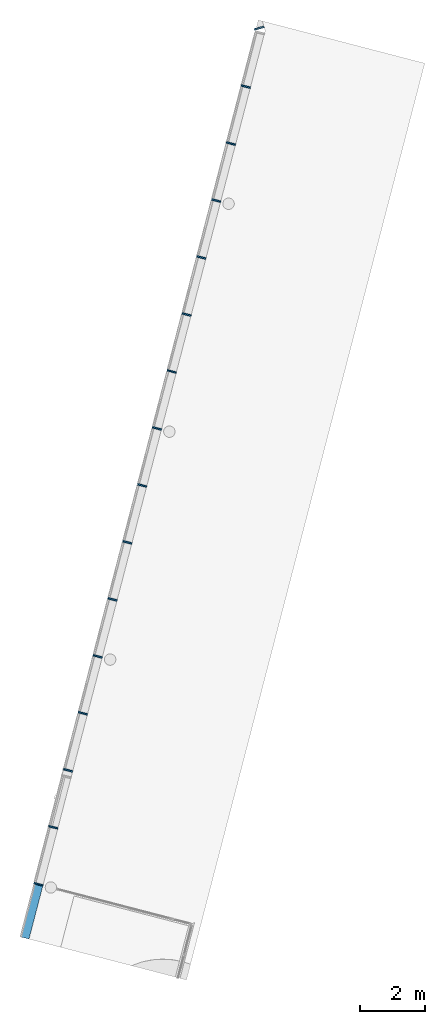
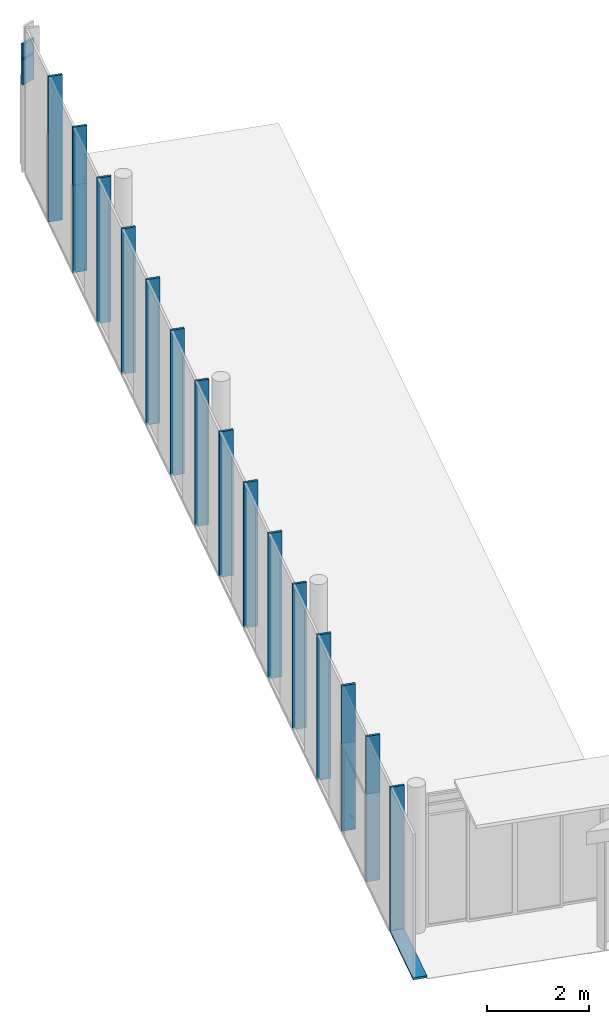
# One storey, part 4 of 9: 28 members, 9 elements without a shape of their own.
"""IFC2X3 building model written with IfcOpenShell, lengths in millimetres."""

from ifc_helpers import new_model, entity, si_unit, converted_unit, derived_unit, direction, frame, origin, origin_with_axes, origin_2d_with_axis, place, context, subcontext, project, spatial, rectangle, extrude, faceted_brep, source, transform, mapped, material, type_object, element, aggregate, save


model = new_model("IFC2X3")

# Units and contexts
model_context = context("Model", 3, precision=0.01, world=origin(), true_north=direction((6.12323399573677e-17, 1.0)))
plan_context = context("Plan", 3, precision=1e-05, world=origin_with_axes())
body_context = subcontext(model_context, "Body", "Model", "MODEL_VIEW")
ifc_project = project(units=[converted_unit("PLANEANGLEUNIT", "DEGREE", entity("IfcPositiveLengthMeasure", 0.0174532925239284), si_unit("PLANEANGLEUNIT", "RADIAN"), dimensions=[0, 0, 0, 0, 0, 0, 0]), si_unit("AREAUNIT", "SQUARE_METRE"), si_unit("LENGTHUNIT", "METRE", prefix="MILLI"), si_unit("MASSUNIT", "GRAM", prefix="KILO"), si_unit("POWERUNIT", "WATT"), si_unit("PRESSUREUNIT", "PASCAL", prefix="KILO"), si_unit("FORCEUNIT", "NEWTON", prefix="KILO"), si_unit("ELECTRICVOLTAGEUNIT", "VOLT"), si_unit("ELECTRICCURRENTUNIT", "AMPERE"), si_unit("THERMODYNAMICTEMPERATUREUNIT", "DEGREE_CELSIUS"), si_unit("TIMEUNIT", "SECOND"), si_unit("VOLUMEUNIT", "CUBIC_METRE"), derived_unit("LINEARVELOCITYUNIT", [(si_unit("LENGTHUNIT", "METRE"), 1), (si_unit("TIMEUNIT", "SECOND"), -1)]), derived_unit("VOLUMETRICFLOWRATEUNIT", [(si_unit("VOLUMEUNIT", "CUBIC_METRE"), 1), (si_unit("TIMEUNIT", "SECOND"), -1)]), derived_unit("THERMALTRANSMITTANCEUNIT", [(si_unit("POWERUNIT", "WATT"), 1), (si_unit("THERMODYNAMICTEMPERATUREUNIT", "KELVIN"), -1), (si_unit("AREAUNIT", "SQUARE_METRE"), -1)]), derived_unit("SOUNDPRESSUREUNIT", [(si_unit("PRESSUREUNIT", "PASCAL"), 1)])], contexts=[model_context, plan_context])

# Site, building, storey
site_placement = place(None, frame((0.0, -2.21771188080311e-09, 0.0), z_axis=(0.0, 0.0, 1.0), x_axis=(0.266093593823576, -0.963947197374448, 0.0)))
site = spatial("IfcSite", under=ifc_project, at=site_placement, Name="ENZV", CompositionType="ELEMENT")
building_placement = place(site_placement, origin_with_axes())
building = spatial("IfcBuilding", under=site, at=building_placement, Name="ZV001", CompositionType="ELEMENT")
storey_placement = place(building_placement, frame((0.0, 0.0, 5100.0), z_axis=(0.0, 0.0, 1.0), x_axis=(1.0, 0.0, 0.0)))
storey = spatial("IfcBuildingStorey", under=building, at=storey_placement, Name="H01", CompositionType="ELEMENT", Elevation=5100.0)

# Curtain wall, members
curtain_wall_type = type_object("IfcCurtainWallType", Name="Curtain Wall:Curtain Wall glass 125mm ut", PredefinedType="NOTDEFINED")
curtain_wall_1_placement = place(storey_placement, frame((0.0, 0.0, -5100.0), z_axis=(0.0, 0.0, 1.0), x_axis=(1.0, 0.0, 0.0)))
curtain_wall_1 = element("IfcCurtainWall", 1, at=curtain_wall_1_placement, inside=storey, type_object=curtain_wall_type, Name="Curtain Wall:Curtain Wall glass 125mm ut", ObjectType="Curtain Wall:Curtain Wall glass 125mm ut")
ifc_material = material(Name="Aluminium")
member_type_1 = type_object("IfcMemberType", Name="Rectangular Mullion:ENZV_300x50mm_offset 70", PredefinedType="MULLION", material=ifc_material)
shared_shape_1 = source(origin(), body_context, "Body", "SweptSolid", [
    extrude(rectangle(XDim=50.0, YDim=303.0, at=origin_2d_with_axis()), frame((-25.0, 67.0, -599.999999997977), z_axis=(0.0, 0.0, 1.0), x_axis=(-1.0, 0.0, 0.0)), (0.0, 0.0, 1.0), 599.999999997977),
])
member_1_placement = place(curtain_wall_1_placement, frame((-182783.615731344, 380431.274492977, 7215.0), z_axis=(0.0, 0.0, -1.0), x_axis=(1.0, 0.0, 0.0)))
member_1 = element("IfcMember", 2, at=member_1_placement, type_object=member_type_1, material=ifc_material, Name="Rectangular Mullion:ENZV_300x50mm_offset 70", ObjectType="Rectangular Mullion:ENZV_300x50mm_offset 70", context=body_context, shape_type="MappedRepresentation", body=[
    mapped(shared_shape_1, transform((0.0, 0.0, 0.0), scale=1.0)),
])
member_type_2 = type_object("IfcMemberType", Name="Rectangular Mullion:ENZV_300x50mm_offset 70", PredefinedType="MULLION", material=ifc_material)
shared_shape_2 = source(origin(), body_context, "Body", "SweptSolid", [
    extrude(rectangle(XDim=50.0, YDim=303.0, at=origin_2d_with_axis()), frame((-25.0, 67.0, -45.0), z_axis=(0.0, 0.0, 1.0), x_axis=(-1.0, 0.0, 0.0)), (0.0, 0.0, 1.0), 45.0000000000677),
])
member_2_placement = place(curtain_wall_1_placement, frame((-182783.615731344, 380431.274492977, 7814.99999999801), z_axis=(0.0, 0.0, -1.0), x_axis=(1.0, 0.0, 0.0)))
member_2 = element("IfcMember", 3, at=member_2_placement, type_object=member_type_2, material=ifc_material, Name="Rectangular Mullion:ENZV_300x50mm_offset 70", ObjectType="Rectangular Mullion:ENZV_300x50mm_offset 70", context=body_context, shape_type="MappedRepresentation", body=[
    mapped(shared_shape_2, transform((0.0, 0.0, 0.0), scale=1.0)),
])
member_type_3 = type_object("IfcMemberType", Name="Rectangular Mullion:ENZV_300x50mm_offset 70", PredefinedType="MULLION", material=ifc_material)
shared_shape_3 = source(origin(), body_context, "Body", "SweptSolid", [
    extrude(rectangle(XDim=50.0, YDim=303.0, at=origin_2d_with_axis()), frame((-25.0, 67.0, -335.333333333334), z_axis=(0.0, 0.0, 1.0), x_axis=(-1.0, 0.0, 0.0)), (0.0, 0.0, 1.0), 335.333333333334),
])
member_3_placement = place(curtain_wall_1_placement, frame((-182783.615731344, 380431.274492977, 7859.99999999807), z_axis=(0.0, 0.0, -1.0), x_axis=(1.0, 0.0, 0.0)))
member_3 = element("IfcMember", 4, at=member_3_placement, type_object=member_type_3, material=ifc_material, Name="Rectangular Mullion:ENZV_300x50mm_offset 70", ObjectType="Rectangular Mullion:ENZV_300x50mm_offset 70", context=body_context, shape_type="MappedRepresentation", body=[
    mapped(shared_shape_3, transform((0.0, 0.0, 0.0), scale=1.0)),
])
aggregate(curtain_wall_1, [member_1, member_2, member_3])

curtain_wall_2_placement = place(storey_placement, frame((0.0, 0.0, -5100.0), z_axis=(0.0, 0.0, 1.0), x_axis=(1.0, 0.0, 0.0)))
curtain_wall_2 = element("IfcCurtainWall", 5, at=curtain_wall_2_placement, inside=storey, type_object=curtain_wall_type, Name="Curtain Wall:Curtain Wall glass 125mm ut", ObjectType="Curtain Wall:Curtain Wall glass 125mm ut")
member_type_4 = type_object("IfcMemberType", Name="Rectangular Mullion:ENZV_304x50mm", PredefinedType="MULLION", material=ifc_material)
member_4_placement = place(curtain_wall_2_placement, frame((-170288.300932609, 373184.388485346, 5120.0), z_axis=(0.0, 0.0, -1.0), x_axis=(0.866025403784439, -0.5, 0.0)))
member_4 = element("IfcMember", 6, at=member_4_placement, type_object=member_type_4, Name="Rectangular Mullion:ENZV_304x50mm", ObjectType="Rectangular Mullion:ENZV_304x50mm", context=body_context, shape_type="Brep", body=[
    faceted_brep([(25.0, 132.001164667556, -1.81898940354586e-12), (24.9999999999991, 132.001164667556, -3480.0), (25.0, -152.0, -3480.0), (25.0, -152.0, -1.81898940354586e-12), (-25.0, -152.0, -3480.0), (-25.0000000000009, 131.998835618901, -3480.0), (-25.0, 131.998835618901, -1.81898940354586e-12), (-25.0, -152.0, -1.81898940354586e-12)], [[[0, 1, 2, 3]], [[4, 5, 6, 7]], [[2, 4, 7, 3]], [[6, 0, 3, 7]], [[1, 0, 6, 5]], [[5, 4, 2, 1]]], orient=[[False], [False], [False], [False], [False], [False]]),
])
member_5_placement = place(curtain_wall_2_placement, frame((-171847.104734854, 374084.46109692, 5120.0), z_axis=(0.0, 0.0, -1.0), x_axis=(0.866025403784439, -0.5, 0.0)))
member_5 = element("IfcMember", 7, at=member_5_placement, type_object=member_type_4, Name="Rectangular Mullion:ENZV_304x50mm", ObjectType="Rectangular Mullion:ENZV_304x50mm", context=body_context, shape_type="Brep", body=[
    faceted_brep([(25.0, 132.001164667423, -1.81898940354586e-12), (25.0000000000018, 132.001164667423, -3480.0), (25.0, -152.0, -3480.0), (25.0, -152.0, -1.81898940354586e-12), (-25.0, -152.0, -3480.0), (-25.0000000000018, 131.998835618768, -3480.0), (-25.0, 131.998835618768, -1.81898940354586e-12), (-25.0, -152.0, -1.81898940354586e-12)], [[[0, 1, 2, 3]], [[4, 5, 6, 7]], [[2, 4, 7, 3]], [[6, 0, 3, 7]], [[1, 0, 6, 5]], [[5, 4, 2, 1]]], orient=[[False], [False], [False], [False], [False], [False]]),
])
member_6_placement = place(curtain_wall_2_placement, frame((-173405.908537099, 374984.533708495, 5120.0), z_axis=(0.0, 0.0, -1.0), x_axis=(0.866025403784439, -0.5, 0.0)))
member_6 = element("IfcMember", 8, at=member_6_placement, type_object=member_type_4, Name="Rectangular Mullion:ENZV_304x50mm", ObjectType="Rectangular Mullion:ENZV_304x50mm", context=body_context, shape_type="Brep", body=[
    faceted_brep([(25.0, 132.001164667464, -1.81898940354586e-12), (25.0000000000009, 132.001164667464, -3480.0), (25.0, -152.0, -3480.0), (25.0, -152.0, -1.81898940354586e-12), (-25.0, -152.0, -3480.0), (-24.9999999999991, 131.998835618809, -3480.0), (-25.0, 131.998835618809, -1.81898940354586e-12), (-25.0, -152.0, -1.81898940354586e-12)], [[[0, 1, 2, 3]], [[4, 5, 6, 7]], [[2, 4, 7, 3]], [[6, 0, 3, 7]], [[1, 0, 6, 5]], [[5, 4, 2, 1]]], orient=[[False], [False], [False], [False], [False], [False]]),
])
member_7_placement = place(curtain_wall_2_placement, frame((-174964.712339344, 375884.606320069, 5120.0), z_axis=(0.0, 0.0, -1.0), x_axis=(0.866025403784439, -0.5, 0.0)))
member_7 = element("IfcMember", 9, at=member_7_placement, type_object=member_type_4, Name="Rectangular Mullion:ENZV_304x50mm", ObjectType="Rectangular Mullion:ENZV_304x50mm", context=body_context, shape_type="Brep", body=[
    faceted_brep([(25.0, 132.001164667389, -1.81898940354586e-12), (25.0, 132.001164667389, -3480.0), (25.0, -152.0, -3480.0), (25.0, -152.0, -1.81898940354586e-12), (-25.0, -152.0, -3480.0), (-25.0, 131.998835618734, -3480.0), (-25.0, 131.998835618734, -1.81898940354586e-12), (-25.0, -152.0, -1.81898940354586e-12)], [[[0, 1, 2, 3]], [[4, 5, 6, 7]], [[2, 4, 7, 3]], [[6, 0, 3, 7]], [[1, 0, 6, 5]], [[5, 4, 2, 1]]], orient=[[False], [False], [False], [False], [False], [False]]),
])
member_8_placement = place(curtain_wall_2_placement, frame((-176523.516141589, 376784.678931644, 5120.0), z_axis=(0.0, 0.0, -1.0), x_axis=(0.866025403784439, -0.5, 0.0)))
member_8 = element("IfcMember", 10, at=member_8_placement, type_object=member_type_4, Name="Rectangular Mullion:ENZV_304x50mm", ObjectType="Rectangular Mullion:ENZV_304x50mm", context=body_context, shape_type="Brep", body=[
    faceted_brep([(25.0, 132.00116466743, -1.81898940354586e-12), (25.0000000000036, 132.00116466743, -3480.0), (25.0, -152.0, -3480.0), (25.0, -152.0, -1.81898940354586e-12), (-25.0, -152.0, -3480.0), (-25.0, 131.998835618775, -3480.0), (-25.0, 131.998835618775, -1.81898940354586e-12), (-25.0, -152.0, -1.81898940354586e-12)], [[[0, 1, 2, 3]], [[4, 5, 6, 7]], [[2, 4, 7, 3]], [[6, 0, 3, 7]], [[1, 0, 6, 5]], [[5, 4, 2, 1]]], orient=[[False], [False], [False], [False], [False], [False]]),
])
member_9_placement = place(curtain_wall_2_placement, frame((-178082.319943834, 377684.751543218, 5120.0), z_axis=(0.0, 0.0, -1.0), x_axis=(0.866025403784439, -0.5, 0.0)))
member_9 = element("IfcMember", 11, at=member_9_placement, type_object=member_type_4, Name="Rectangular Mullion:ENZV_304x50mm", ObjectType="Rectangular Mullion:ENZV_304x50mm", context=body_context, shape_type="Brep", body=[
    faceted_brep([(25.0, 132.001164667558, -1.81898940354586e-12), (24.9999999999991, 132.001164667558, -3480.0), (25.0, -152.0, -3480.0), (25.0, -152.0, -1.81898940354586e-12), (-25.0, -152.0, -3480.0), (-24.9999999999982, 131.998835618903, -3480.0), (-25.0, 131.998835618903, -1.81898940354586e-12), (-25.0, -152.0, -1.81898940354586e-12)], [[[0, 1, 2, 3]], [[4, 5, 6, 7]], [[2, 4, 7, 3]], [[6, 0, 3, 7]], [[1, 0, 6, 5]], [[5, 4, 2, 1]]], orient=[[False], [False], [False], [False], [False], [False]]),
])
member_10_placement = place(curtain_wall_2_placement, frame((-179641.123746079, 378584.824154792, 5120.0), z_axis=(0.0, 0.0, -1.0), x_axis=(0.866025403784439, -0.5, 0.0)))
member_10 = element("IfcMember", 12, at=member_10_placement, type_object=member_type_4, Name="Rectangular Mullion:ENZV_304x50mm", ObjectType="Rectangular Mullion:ENZV_304x50mm", context=body_context, shape_type="Brep", body=[
    faceted_brep([(25.0, 132.001164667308, -1.81898940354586e-12), (25.0000000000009, 132.001164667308, -3480.0), (25.0, -152.0, -3480.0), (25.0, -152.0, -1.81898940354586e-12), (-25.0, -152.0, -3480.0), (-24.9999999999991, 131.998835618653, -3480.0), (-25.0, 131.998835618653, -1.81898940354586e-12), (-25.0, -152.0, -1.81898940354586e-12)], [[[0, 1, 2, 3]], [[4, 5, 6, 7]], [[2, 4, 7, 3]], [[6, 0, 3, 7]], [[1, 0, 6, 5]], [[5, 4, 2, 1]]], orient=[[False], [False], [False], [False], [False], [False]]),
])
member_11_placement = place(curtain_wall_2_placement, frame((-164053.085723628, 369584.098039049, 5120.0), z_axis=(0.0, 0.0, -1.0), x_axis=(0.866025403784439, -0.5, 0.0)))
member_11 = element("IfcMember", 13, at=member_11_placement, type_object=member_type_4, Name="Rectangular Mullion:ENZV_304x50mm", ObjectType="Rectangular Mullion:ENZV_304x50mm", context=body_context, shape_type="Brep", body=[
    faceted_brep([(25.0, 132.001164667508, -1.81898940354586e-12), (24.9999999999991, 132.001164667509, -3480.0), (25.0, -152.0, -3480.0), (25.0, -152.0, -1.81898940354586e-12), (-25.0, -152.0, -3480.0), (-25.0000000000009, 131.998835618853, -3480.0), (-25.0, 131.998835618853, -1.81898940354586e-12), (-25.0, -152.0, -1.81898940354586e-12)], [[[0, 1, 2, 3]], [[4, 5, 6, 7]], [[2, 4, 7, 3]], [[6, 0, 3, 7]], [[1, 0, 6, 5]], [[5, 4, 2, 1]]], orient=[[False], [False], [False], [False], [False], [False]]),
])
member_12_placement = place(curtain_wall_2_placement, frame((-165611.889525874, 370484.170650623, 5120.0), z_axis=(0.0, 0.0, -1.0), x_axis=(0.866025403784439, -0.5, 0.0)))
member_12 = element("IfcMember", 14, at=member_12_placement, type_object=member_type_4, Name="Rectangular Mullion:ENZV_304x50mm", ObjectType="Rectangular Mullion:ENZV_304x50mm", context=body_context, shape_type="Brep", body=[
    faceted_brep([(25.0, 132.001164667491, -1.81898940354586e-12), (24.9999999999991, 132.001164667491, -3480.0), (25.0, -152.0, -3480.0), (25.0, -152.0, -1.81898940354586e-12), (-25.0, -152.0, -3480.0), (-25.0000000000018, 131.998835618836, -3480.0), (-25.0, 131.998835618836, -1.81898940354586e-12), (-25.0, -152.0, -1.81898940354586e-12)], [[[0, 1, 2, 3]], [[4, 5, 6, 7]], [[2, 4, 7, 3]], [[6, 0, 3, 7]], [[1, 0, 6, 5]], [[5, 4, 2, 1]]], orient=[[False], [False], [False], [False], [False], [False]]),
])
member_13_placement = place(curtain_wall_2_placement, frame((-167170.693328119, 371384.243262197, 5120.0), z_axis=(0.0, 0.0, -1.0), x_axis=(0.866025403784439, -0.5, 0.0)))
member_13 = element("IfcMember", 15, at=member_13_placement, type_object=member_type_4, Name="Rectangular Mullion:ENZV_304x50mm", ObjectType="Rectangular Mullion:ENZV_304x50mm", context=body_context, shape_type="Brep", body=[
    faceted_brep([(25.0, 132.001164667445, -1.81898940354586e-12), (24.9999999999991, 132.001164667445, -3480.0), (25.0, -152.0, -3480.0), (25.0, -152.0, -1.81898940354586e-12), (-25.0, -152.0, -3480.0), (-25.0000000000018, 131.99883561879, -3480.0), (-25.0, 131.99883561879, -1.81898940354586e-12), (-25.0, -152.0, -1.81898940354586e-12)], [[[0, 1, 2, 3]], [[4, 5, 6, 7]], [[2, 4, 7, 3]], [[6, 0, 3, 7]], [[1, 0, 6, 5]], [[5, 4, 2, 1]]], orient=[[False], [False], [False], [False], [False], [False]]),
])
member_14_placement = place(curtain_wall_2_placement, frame((-168729.497130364, 372284.315873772, 5120.0), z_axis=(0.0, 0.0, -1.0), x_axis=(0.866025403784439, -0.5, 0.0)))
member_14 = element("IfcMember", 16, at=member_14_placement, type_object=member_type_4, Name="Rectangular Mullion:ENZV_304x50mm", ObjectType="Rectangular Mullion:ENZV_304x50mm", context=body_context, shape_type="Brep", body=[
    faceted_brep([(25.0, 132.001164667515, -1.81898940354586e-12), (24.9999999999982, 132.001164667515, -3480.0), (25.0, -152.0, -3480.0), (25.0, -152.0, -1.81898940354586e-12), (-25.0, -152.0, -3480.0), (-25.0000000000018, 131.99883561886, -3480.0), (-25.0, 131.99883561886, -1.81898940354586e-12), (-25.0, -152.0, -1.81898940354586e-12)], [[[0, 1, 2, 3]], [[4, 5, 6, 7]], [[2, 4, 7, 3]], [[6, 0, 3, 7]], [[1, 0, 6, 5]], [[5, 4, 2, 1]]], orient=[[False], [False], [False], [False], [False], [False]]),
])

# Curtain wall, member
curtain_wall_3_placement = place(storey_placement, frame((0.0, 0.0, -5100.0), z_axis=(0.0, 0.0, 1.0), x_axis=(1.0, 0.0, 0.0)))
curtain_wall_3 = element("IfcCurtainWall", 17, at=curtain_wall_3_placement, inside=storey, type_object=curtain_wall_type, Name="Curtain Wall:Curtain Wall glass 125mm ut", ObjectType="Curtain Wall:Curtain Wall glass 125mm ut")
member_type_5 = type_object("IfcMemberType", Name="Rectangular Mullion:ENZV_304x50mm", PredefinedType="MULLION", material=ifc_material)
member_15_placement = place(curtain_wall_3_placement, frame((-159376.365979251, 366884.414201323, 5120.0), z_axis=(-0.866025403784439, 0.5, 0.0), x_axis=(0.0, 0.0, -1.0)))
member_15 = element("IfcMember", 18, at=member_15_placement, type_object=member_type_5, Name="Rectangular Mullion:ENZV_304x50mm", ObjectType="Rectangular Mullion:ENZV_304x50mm", context=body_context, shape_type="Brep", body=[
    faceted_brep([(0.0, 132.616627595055, -0.0786558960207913), (0.0, 132.695575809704, -1694.93836773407), (0.0, -151.5, -1694.95160584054), (0.0, -151.5, -0.0786558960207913), (-50.0, -151.5, -1694.95160584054), (-50.0, 132.695575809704, -1694.93836773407), (-50.0, 132.616627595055, -0.0786558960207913), (-50.0, -151.5, -0.0786558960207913)], [[[0, 1, 2, 3]], [[4, 5, 6, 7]], [[2, 4, 7, 3]], [[6, 0, 3, 7]], [[5, 4, 2, 1]], [[1, 0, 6, 5]]], orient=[[False], [False], [False], [False], [False], [False]]),
])
aggregate(curtain_wall_3, [member_15])

curtain_wall_4_placement = place(storey_placement, frame((0.0, 0.0, -5100.0), z_axis=(0.0, 0.0, 1.0), x_axis=(1.0, 0.0, 0.0)))
curtain_wall_4 = element("IfcCurtainWall", 19, at=curtain_wall_4_placement, inside=storey, type_object=curtain_wall_type, Name="Curtain Wall:Curtain Wall glass 125mm ut", ObjectType="Curtain Wall:Curtain Wall glass 125mm ut")
member_type_6 = type_object("IfcMemberType", Name="Rectangular Mullion:ENZV_304x50mm", PredefinedType="MULLION", material=ifc_material)
member_16_placement = place(curtain_wall_4_placement, frame((-181199.127924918, 379486.161358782, 5120.0), z_axis=(0.0, 0.0, -1.0), x_axis=(-0.866025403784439, 0.5, 0.0)))
member_16 = element("IfcMember", 20, at=member_16_placement, type_object=member_type_6, Name="Rectangular Mullion:ENZV_304x50mm", ObjectType="Rectangular Mullion:ENZV_304x50mm", context=body_context, shape_type="Brep", body=[
    faceted_brep([(25.0, 152.0, -3480.0), (24.9999999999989, -133.493819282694, -3480.0), (25.0, -133.493819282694, -1.81898940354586e-12), (25.0, 152.0, -1.81898940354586e-12), (-25.0, 152.0, -3480.0), (-25.0, 152.0, -1.81898940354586e-12), (-25.0, -133.496148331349, -1.81898940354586e-12), (-25.0000000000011, -133.496148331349, -3480.0)], [[[0, 1, 2, 3]], [[4, 0, 3, 5]], [[6, 7, 4, 5]], [[2, 6, 5, 3]], [[7, 6, 2, 1]], [[1, 0, 4, 7]]], orient=[[False], [False], [False], [False], [False], [False]]),
])

curtain_wall_5_placement = place(storey_placement, frame((0.0, 0.0, -5100.0), z_axis=(0.0, 0.0, 1.0), x_axis=(1.0, 0.0, 0.0)))
curtain_wall_5 = element("IfcCurtainWall", 21, at=curtain_wall_5_placement, inside=storey, type_object=curtain_wall_type, Name="Curtain Wall:Curtain Wall glass 125mm ut", ObjectType="Curtain Wall:Curtain Wall glass 125mm ut")
member_17_placement = place(curtain_wall_5_placement, frame((-160934.725180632, 367785.098754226, 5120.0), z_axis=(0.0, 0.0, -1.0), x_axis=(-0.866025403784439, 0.5, 0.0)))
member_17 = element("IfcMember", 22, at=member_17_placement, type_object=member_type_6, Name="Rectangular Mullion:ENZV_304x50mm", ObjectType="Rectangular Mullion:ENZV_304x50mm", context=body_context, shape_type="Brep", body=[
    faceted_brep([(25.0, 152.0, -3480.0), (25.0000000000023, -133.367720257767, -3480.0), (25.0, -133.367720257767, -1.81898940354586e-12), (25.0, 152.0, -1.81898940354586e-12), (-25.0, 152.0, -3480.0), (-25.0, 152.0, -1.81898940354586e-12), (-25.0, -133.370049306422, -1.81898940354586e-12), (-24.9999999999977, -133.370049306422, -3480.0)], [[[0, 1, 2, 3]], [[4, 0, 3, 5]], [[6, 7, 4, 5]], [[2, 6, 5, 3]], [[7, 6, 2, 1]], [[1, 0, 4, 7]]], orient=[[False], [False], [False], [False], [False], [False]]),
])

curtain_wall_6_placement = place(storey_placement, frame((0.0, 0.0, -5100.0), z_axis=(0.0, 0.0, 1.0), x_axis=(1.0, 0.0, 0.0)))
curtain_wall_6 = element("IfcCurtainWall", 23, at=curtain_wall_6_placement, inside=storey, type_object=curtain_wall_type, Name="Curtain Wall:Curtain Wall glass 125mm ut", ObjectType="Curtain Wall:Curtain Wall glass 125mm ut")
member_18_placement = place(curtain_wall_6_placement, frame((-162493.487691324, 368685.196292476, 5120.0), z_axis=(0.0, 0.0, -1.0), x_axis=(-0.866025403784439, 0.5, 0.0)))
member_18 = element("IfcMember", 24, at=member_18_placement, type_object=member_type_6, Name="Rectangular Mullion:ENZV_304x50mm", ObjectType="Rectangular Mullion:ENZV_304x50mm", context=body_context, shape_type="Brep", body=[
    faceted_brep([(25.0, 152.0, -3480.0), (25.0000000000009, -133.409954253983, -3480.0), (25.0, -133.409954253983, -1.81898940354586e-12), (25.0, 152.0, -1.81898940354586e-12), (-25.0, 152.0, -3480.0), (-25.0, 152.0, -1.81898940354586e-12), (-25.0, -133.412283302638, -1.81898940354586e-12), (-24.9999999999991, -133.412283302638, -3480.0)], [[[0, 1, 2, 3]], [[4, 0, 3, 5]], [[6, 7, 4, 5]], [[2, 6, 5, 3]], [[7, 6, 2, 1]], [[1, 0, 4, 7]]], orient=[[False], [False], [False], [False], [False], [False]]),
])

# Member
member_type_7 = type_object("IfcMemberType", Name="Rectangular Mullion:ENZV_304x50mm", PredefinedType="MULLION", material=ifc_material)
member_19_placement = place(curtain_wall_4_placement, frame((-181220.789703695, 379498.669137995, 5120.0), z_axis=(0.0, 0.0, -1.0), x_axis=(-0.866025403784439, 0.5, 0.0)))
member_19 = element("IfcMember", 25, at=member_19_placement, type_object=member_type_7, Name="Rectangular Mullion:ENZV_304x50mm", ObjectType="Rectangular Mullion:ENZV_304x50mm", context=body_context, shape_type="Brep", body=[
    faceted_brep([(0.0, 152.0, -3480.0), (-4.54747350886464e-13, -133.494983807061, -3480.0), (0.0, -133.494983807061, -1.81898940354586e-12), (0.0, 152.0, -1.81898940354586e-12), (-50.0, 152.0, -3480.0), (-50.0, 152.0, -1.81898940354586e-12), (-50.0, -133.497312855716, -1.81898940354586e-12), (-50.0000000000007, -133.497312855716, -3480.0)], [[[0, 1, 2, 3]], [[4, 0, 3, 5]], [[6, 7, 4, 5]], [[2, 6, 5, 3]], [[7, 6, 2, 1]], [[1, 0, 4, 7]]], orient=[[False], [False], [False], [False], [False], [False]]),
])

aggregate(curtain_wall_4, [member_16, member_19])

member_20_placement = place(curtain_wall_5_placement, frame((-160956.387542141, 367797.605524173, 5120.0), z_axis=(0.0, 0.0, -1.0), x_axis=(-0.866025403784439, 0.5, 0.0)))
member_20 = element("IfcMember", 26, at=member_20_placement, type_object=member_type_7, Name="Rectangular Mullion:ENZV_304x50mm", ObjectType="Rectangular Mullion:ENZV_304x50mm", context=body_context, shape_type="Brep", body=[
    faceted_brep([(0.0, 152.0, -3480.0), (2.27373675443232e-12, -133.367719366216, -3480.0), (0.0, -133.367719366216, -1.81898940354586e-12), (0.0, 152.0, -1.81898940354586e-12), (-50.0, 152.0, -3480.0), (-50.0, 152.0, -1.81898940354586e-12), (-50.0, -133.370048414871, -1.81898940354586e-12), (-49.9999999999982, -133.370048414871, -3480.0)], [[[0, 1, 2, 3]], [[4, 0, 3, 5]], [[6, 7, 4, 5]], [[2, 6, 5, 3]], [[7, 6, 2, 1]], [[1, 0, 4, 7]]], orient=[[False], [False], [False], [False], [False], [False]]),
])

member_21_placement = place(curtain_wall_6_placement, frame((-162515.149470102, 368697.70407169, 5120.0), z_axis=(0.0, 0.0, -1.0), x_axis=(-0.866025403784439, 0.5, 0.0)))
member_21 = element("IfcMember", 27, at=member_21_placement, type_object=member_type_7, Name="Rectangular Mullion:ENZV_304x50mm", ObjectType="Rectangular Mullion:ENZV_304x50mm", context=body_context, shape_type="Brep", body=[
    faceted_brep([(0.0, 152.0, -3480.0), (1.81898940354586e-12, -133.411118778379, -3480.0), (0.0, -133.411118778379, -1.81898940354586e-12), (0.0, 152.0, -1.81898940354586e-12), (-50.0, 152.0, -3480.0), (-50.0, 152.0, -1.81898940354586e-12), (-50.0, -133.413447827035, -1.81898940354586e-12), (-49.9999999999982, -133.413447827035, -3480.0)], [[[0, 1, 2, 3]], [[4, 0, 3, 5]], [[6, 7, 4, 5]], [[2, 6, 5, 3]], [[7, 6, 2, 1]], [[1, 0, 4, 7]]], orient=[[False], [False], [False], [False], [False], [False]]),
])

aggregate(curtain_wall_6, [member_18, member_21])

# Curtain wall, member
curtain_wall_7_placement = place(storey_placement, frame((0.0, 0.0, -5100.0), z_axis=(0.0, 0.0, 1.0), x_axis=(1.0, 0.0, 0.0)))
curtain_wall_7 = element("IfcCurtainWall", 28, at=curtain_wall_7_placement, inside=storey, type_object=curtain_wall_type, Name="Curtain Wall:Curtain Wall glass 125mm ut", ObjectType="Curtain Wall:Curtain Wall glass 125mm ut")
member_type_8 = type_object("IfcMemberType", Name="Rectangular Mullion:ENZV_304x50mm", PredefinedType="MULLION", material=ifc_material)
member_22_placement = place(curtain_wall_7_placement, frame((-181178.121004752, 379472.528973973, 9290.0), z_axis=(0.0, 0.0, 1.0), x_axis=(0.866025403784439, -0.5, 0.0)))
member_22 = element("IfcMember", 29, at=member_22_placement, type_object=member_type_8, Name="Rectangular Mullion:ENZV_304x50mm", ObjectType="Rectangular Mullion:ENZV_304x50mm", context=body_context, shape_type="Brep", body=[
    faceted_brep([(0.0, -132.193617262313, -4170.0), (-9.09494701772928e-13, -132.193617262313, -690.0), (0.0, 152.0, -690.0), (0.0, 152.0, -4170.0), (-50.0, 152.0, -690.0), (-50.0, 152.0, -4170.0), (-50.0000000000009, -132.191288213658, -690.0), (-50.0, -132.191288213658, -4170.0)], [[[0, 1, 2, 3]], [[2, 4, 5, 3]], [[4, 6, 7, 5]], [[7, 0, 3, 5]], [[1, 0, 7, 6]], [[6, 4, 2, 1]]], orient=[[False], [False], [False], [False], [False], [False]]),
])
aggregate(curtain_wall_7, [member_22])

# Member
member_23_placement = place(curtain_wall_5_placement, frame((-159354.217425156, 366872.592197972, 9290.0), z_axis=(0.0, 0.0, 1.0), x_axis=(0.866025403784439, -0.5, 0.0)))
member_23 = element("IfcMember", 30, at=member_23_placement, type_object=member_type_8, Name="Rectangular Mullion:ENZV_304x50mm", ObjectType="Rectangular Mullion:ENZV_304x50mm", context=body_context, shape_type="Brep", body=[
    faceted_brep([(0.0, -133.453914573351, -4170.0), (-2.04636307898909e-12, -133.453914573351, -690.0), (0.0, 152.0, -690.0), (0.0, 152.0, -4170.0), (-50.0, 152.0, -690.0), (-50.0, 152.0, -4170.0), (-50.0000000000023, -133.451585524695, -690.0), (-50.0, -133.451585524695, -4170.0)], [[[0, 1, 2, 3]], [[2, 4, 5, 3]], [[4, 6, 7, 5]], [[7, 0, 3, 5]], [[1, 0, 7, 6]], [[6, 4, 2, 1]]], orient=[[False], [False], [False], [False], [False], [False]]),
])

aggregate(curtain_wall_5, [member_17, member_20, member_23])

# Curtain wall, members
curtain_wall_8_placement = place(storey_placement, frame((0.0, 0.0, -5100.0), z_axis=(0.0, 0.0, 1.0), x_axis=(1.0, 0.0, 0.0)))
curtain_wall_8 = element("IfcCurtainWall", 31, at=curtain_wall_8_placement, inside=storey, type_object=curtain_wall_type, Name="Curtain Wall:Curtain Wall glass 125mm ut", ObjectType="Curtain Wall:Curtain Wall glass 125mm ut")
member_type_9 = type_object("IfcMemberType", Name="Rectangular Mullion:ENZV_304x50mm", PredefinedType="MULLION", material=ifc_material)
member_24_placement = place(curtain_wall_8_placement, frame((-162493.486830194, 368685.30731035, 7215.0), z_axis=(0.0, 0.0, -1.0), x_axis=(-0.866025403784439, 0.5, 0.0)))
member_24 = element("IfcMember", 32, at=member_24_placement, type_object=member_type_9, Name="Rectangular Mullion:ENZV_304x50mm", ObjectType="Rectangular Mullion:ENZV_304x50mm", context=body_context, shape_type="Brep", body=[
    faceted_brep([(25.0, 152.0, -1385.0), (25.0000000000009, -133.506526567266, -1385.0), (25.0, -133.506526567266, -1.81898940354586e-12), (25.0, 152.0, -1.81898940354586e-12), (-25.0, 152.0, -1385.0), (-25.0, 152.0, -1.81898940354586e-12), (-25.0, -133.508855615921, -1.81898940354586e-12), (-24.9999999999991, -133.508855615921, -1385.0)], [[[0, 1, 2, 3]], [[4, 0, 3, 5]], [[6, 7, 4, 5]], [[2, 6, 5, 3]], [[7, 6, 2, 1]], [[1, 0, 4, 7]]], orient=[[False], [False], [False], [False], [False], [False]]),
])
member_25_placement = place(curtain_wall_8_placement, frame((-160934.684494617, 367785.232158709, 7215.0), z_axis=(0.0, 0.0, -1.0), x_axis=(-0.866025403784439, 0.5, 0.0)))
member_25 = element("IfcMember", 33, at=member_25_placement, type_object=member_type_9, Name="Rectangular Mullion:ENZV_304x50mm", ObjectType="Rectangular Mullion:ENZV_304x50mm", context=body_context, shape_type="Brep", body=[
    faceted_brep([(25.0, 152.0, -1385.0), (25.0000000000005, -133.503593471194, -1385.0), (25.0, -133.503593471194, -1.81898940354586e-12), (25.0, 152.0, -1.81898940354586e-12), (-25.0, 152.0, -1385.0), (-25.0, 152.0, -1.81898940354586e-12), (-25.0, -133.505922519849, -1.81898940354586e-12), (-24.9999999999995, -133.505922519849, -1385.0)], [[[0, 1, 2, 3]], [[4, 0, 3, 5]], [[6, 7, 4, 5]], [[2, 6, 5, 3]], [[7, 6, 2, 1]], [[1, 0, 4, 7]]], orient=[[False], [False], [False], [False], [False], [False]]),
])
aggregate(curtain_wall_8, [member_24, member_25])

curtain_wall_9_placement = place(storey_placement, frame((0.0, 0.0, -5100.0), z_axis=(0.0, 0.0, 1.0), x_axis=(1.0, 0.0, 0.0)))
curtain_wall_9 = element("IfcCurtainWall", 34, at=curtain_wall_9_placement, inside=storey, type_object=curtain_wall_type, Name="Curtain Wall:Curtain Wall glass 125mm ut", ObjectType="Curtain Wall:Curtain Wall glass 125mm ut")
member_type_10 = type_object("IfcMemberType", Name="Rectangular Mullion:ENZV_304x50mm", PredefinedType="MULLION", material=ifc_material)
member_26_placement = place(curtain_wall_9_placement, frame((-181199.640350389, 379485.311214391, 7215.0), z_axis=(0.0, 0.0, -1.0), x_axis=(-0.866025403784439, 0.5, 0.0)))
member_26 = element("IfcMember", 35, at=member_26_placement, type_object=member_type_10, Name="Rectangular Mullion:ENZV_304x50mm", ObjectType="Rectangular Mullion:ENZV_304x50mm", context=body_context, shape_type="Brep", body=[
    faceted_brep([(25.0, 152.0, -1385.0), (25.0000000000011, -132.501359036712, -1385.0), (25.0, -132.501359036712, -1.81898940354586e-12), (25.0, 152.0, -1.81898940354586e-12), (-25.0, 152.0, -1385.0), (-25.0, 152.0, -1.81898940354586e-12), (-25.0, -132.503688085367, -1.81898940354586e-12), (-24.9999999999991, -132.503688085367, -1385.0)], [[[0, 1, 2, 3]], [[4, 0, 3, 5]], [[6, 7, 4, 5]], [[2, 6, 5, 3]], [[7, 6, 2, 1]], [[1, 0, 4, 7]]], orient=[[False], [False], [False], [False], [False], [False]]),
])
member_27_placement = place(curtain_wall_9_placement, frame((-179640.838014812, 378585.23606275, 7215.0), z_axis=(0.0, 0.0, -1.0), x_axis=(-0.866025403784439, 0.5, 0.0)))
member_27 = element("IfcMember", 36, at=member_27_placement, type_object=member_type_10, Name="Rectangular Mullion:ENZV_304x50mm", ObjectType="Rectangular Mullion:ENZV_304x50mm", context=body_context, shape_type="Brep", body=[
    faceted_brep([(25.0, 152.0, -1385.0), (25.0000000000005, -132.498425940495, -1385.0), (25.0, -132.498425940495, -1.81898940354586e-12), (25.0, 152.0, -1.81898940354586e-12), (-25.0, 152.0, -1385.0), (-25.0, 152.0, -1.81898940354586e-12), (-25.0, -132.50075498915, -1.81898940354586e-12), (-24.9999999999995, -132.50075498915, -1385.0)], [[[0, 1, 2, 3]], [[4, 0, 3, 5]], [[6, 7, 4, 5]], [[2, 6, 5, 3]], [[7, 6, 2, 1]], [[1, 0, 4, 7]]], orient=[[False], [False], [False], [False], [False], [False]]),
])
aggregate(curtain_wall_9, [member_26, member_27])

# Member
member_type_11 = type_object("IfcMemberType", Name="Rectangular Mullion:ENZV_304x50mm", PredefinedType="MULLION", material=ifc_material)
member_28_placement = place(curtain_wall_2_placement, frame((-179662.773798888, 378597.325163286, 9290.0), z_axis=(0.0, 0.0, 1.0), x_axis=(-0.866025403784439, 0.5, 0.0)))
member_28 = element("IfcMember", 37, at=member_28_placement, type_object=member_type_11, Name="Rectangular Mullion:ENZV_304x50mm", ObjectType="Rectangular Mullion:ENZV_304x50mm", context=body_context, shape_type="Brep", body=[
    faceted_brep([(0.0, -152.0, -690.0), (-9.09494701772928e-13, 132.000000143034, -690.0), (0.0, 132.000000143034, -4170.0), (0.0, -152.0, -4170.0), (-50.0, 132.002329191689, -4170.0), (-50.0000000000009, 132.002329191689, -690.0), (-50.0, -152.0, -690.0), (-50.0, -152.0, -4170.0)], [[[0, 1, 2, 3]], [[4, 5, 6, 7]], [[6, 0, 3, 7]], [[2, 4, 7, 3]], [[5, 4, 2, 1]], [[1, 0, 6, 5]]], orient=[[False], [False], [False], [False], [False], [False]]),
])

aggregate(curtain_wall_2, [member_4, member_5, member_6, member_7, member_8, member_9, member_10, member_28, member_11, member_12, member_13, member_14])

save(model, "model.ifc")
